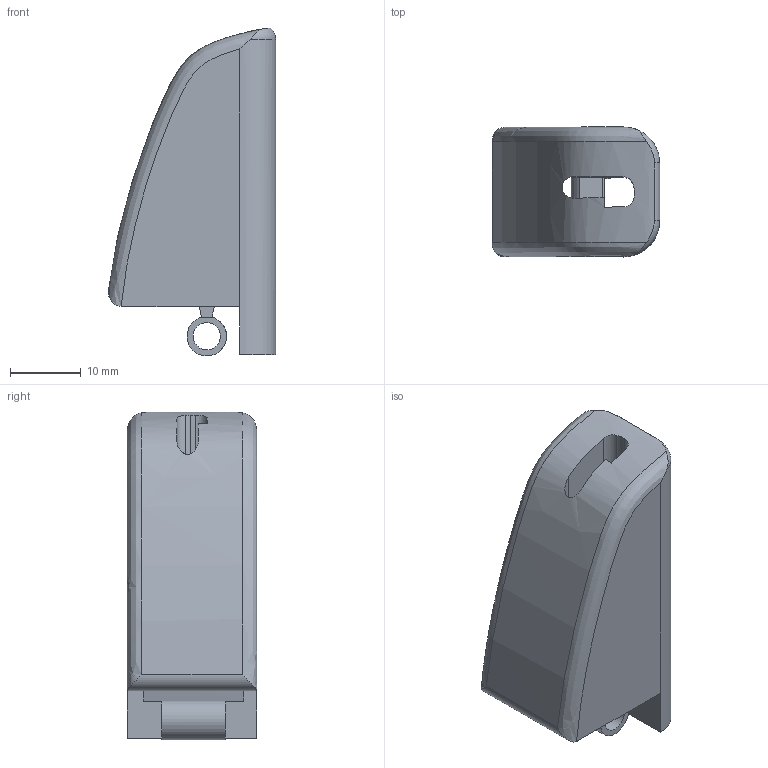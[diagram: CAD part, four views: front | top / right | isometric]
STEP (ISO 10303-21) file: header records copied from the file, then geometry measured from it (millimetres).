
FILE_DESCRIPTION(/* description */ ('STEP AP242 Edition 2','CAx-IF Rec.Pracs.---Representation and Presentation of Product Manufacturing Information (PMI)---4.0---2014-10-13','CAx-IF Rec.Pracs.---3D Tessellated Geometry---0.4---2014-09-14','2;1','CAx-IF Rec.Pracs.---User Defined Attributes---1.5---2016-08-15'),/* implementation_level */ '2;1');
FILE_NAME(/* name */ 'Main - Poi Tih',/* time_stamp */ '2026-06-25T16:15:31Z',/* author */ (''),/* organization */ (''),/* preprocessor_version */ 'ST-DEVELOPER v20',/* originating_system */ 'ONSHAPE BY PTC INC, 1.216',/* authorisation */ ' ');
FILE_SCHEMA (('AP242_MANAGED_MODEL_BASED_3D_ENGINEERING_MIM_LF { 1 0 10303 442 3 1 4 }'));
Length unit declared in the file: metre
Products named in the file (1): Poi Tih
Bounding box: 23.73 x 18.37 x 46.49 mm (x, y, z)
Volume: 12193.6 mm3; surface area: 4866.6 mm2
Topology: 1 solids, 1 shells, 57 faces, 164 edges, 106 vertices
Faces by surface type: plane 38, cylinder 12, bspline 3, torus 2, cone 2
Full cylindrical faces by diameter (mm): 3.865 x1
Entity records: 2120 total; most frequent: CARTESIAN_POINT 616, ORIENTED_EDGE 326, DIRECTION 284, EDGE_CURVE 163, LINE 112, VECTOR 112, VERTEX_POINT 106, AXIS2_PLACEMENT_3D 86
